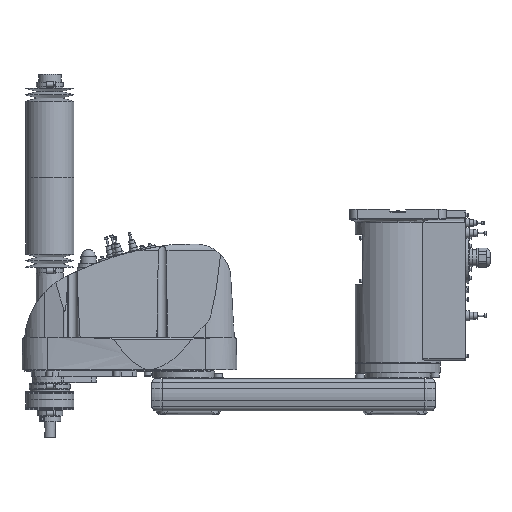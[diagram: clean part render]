
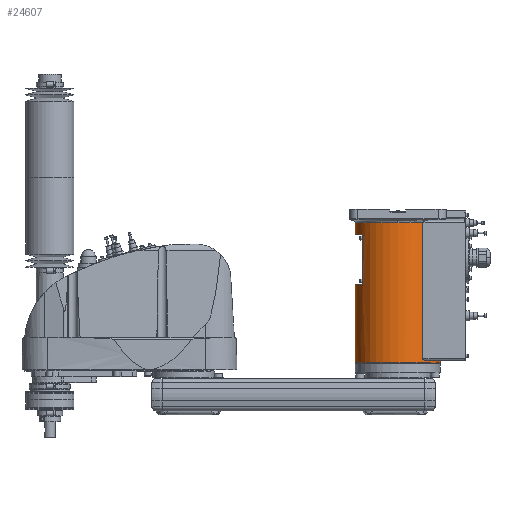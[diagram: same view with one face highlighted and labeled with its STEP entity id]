
A CAD part, top view. The second image highlights one B-rep face of the part: STEP entity #24607.
In plain terms, the highlighted cylindrical face has radius 80 mm (diameter 160 mm), a partial arc.
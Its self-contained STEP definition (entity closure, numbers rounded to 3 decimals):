
#9285 = EDGE_CURVE( '', #12283, #22599, #27276, .T. );
#9667 = VERTEX_POINT( '', #27705 );
#9963 = VERTEX_POINT( '', #28034 );
#10291 = EDGE_CURVE( '', #21571, #16635, #28407, .T. );
#10433 = VERTEX_POINT( '', #28565 );
#10473 = EDGE_CURVE( '', #22599, #18465, #28614, .T. );
#10823 = EDGE_CURVE( '', #26051, #10433, #29000, .T. );
#11347 = VERTEX_POINT( '', #29575 );
#12283 = VERTEX_POINT( '', #30631 );
#13363 = VERTEX_POINT( '', #31855 );
#14627 = EDGE_CURVE( '', #9963, #9667, #33268, .T. );
#16635 = VERTEX_POINT( '', #35516 );
#18465 = VERTEX_POINT( '', #37534 );
#18671 = EDGE_CURVE( '', #12283, #21571, #37766, .T. );
#21347 = EDGE_CURVE( '', #18465, #9963, #40775, .T. );
#21571 = VERTEX_POINT( '', #41015 );
#21703 = VERTEX_POINT( '', #41161 );
#22599 = VERTEX_POINT( '', #42144 );
#23033 = EDGE_CURVE( '', #11347, #13363, #42628, .T. );
#24607 = ADVANCED_FACE( '', ( #44364 ), #44365, .T. );
#24775 = EDGE_CURVE( '', #9667, #11347, #44560, .T. );
#24853 = EDGE_CURVE( '', #10433, #21703, #44642, .T. );
#25329 = EDGE_CURVE( '', #13363, #26051, #45155, .T. );
#26051 = VERTEX_POINT( '', #45978 );
#26063 = EDGE_CURVE( '', #21703, #16635, #45990, .T. );
#27276 = LINE( '', #47490, #47491 );
#27705 = CARTESIAN_POINT( '', ( -80., 176., 0. ) );
#28034 = CARTESIAN_POINT( '', ( -66., 176., 45.211 ) );
#28407 = CIRCLE( '', #49309, 80. );
#28565 = CARTESIAN_POINT( '', ( 50.557, 34.5, 62. ) );
#28614 = CIRCLE( '', #49596, 80. );
#29000 = CIRCLE( '', #50144, 80. );
#29575 = CARTESIAN_POINT( '', ( -80., 30., 0. ) );
#30631 = CARTESIAN_POINT( '', ( -80., 291.5, 0. ) );
#31855 = CARTESIAN_POINT( '', ( 80., 30., 0. ) );
#33268 = CIRCLE( '', #56792, 80. );
#35516 = CARTESIAN_POINT( '', ( 46.637, 291.5, 65. ) );
#37534 = CARTESIAN_POINT( '', ( -66., 269., 45.211 ) );
#37766 = CIRCLE( '', #63629, 80. );
#40775 = LINE( '', #68255, #68256 );
#41015 = CARTESIAN_POINT( '', ( 0., 291.5, 80. ) );
#41161 = CARTESIAN_POINT( '', ( 46.637, 37.5, 65. ) );
#42144 = CARTESIAN_POINT( '', ( -80., 269., 0. ) );
#42628 = CIRCLE( '', #71245, 80. );
#44364 = FACE_OUTER_BOUND( '', #73983, .T. );
#44365 = CYLINDRICAL_SURFACE( '', #73984, 80. );
#44560 = LINE( '', #74257, #74258 );
#44642 = B_SPLINE_CURVE_WITH_KNOTS( '', 3, ( #74362, #74363, #74364, #74365, #74366, #74367, #74368, #74369, #74370, #74371, #74372, #74373, #74374, #74375, #74376, #74377 ), .UNSPECIFIED., .F., .F., ( 4, 2, 2, 2, 2, 2, 2, 4 ), ( -6.06, -5.11, -4.16, -2.26, -1.695, -1.13, -0.565, 0. ), .UNSPECIFIED. );
#45155 = LINE( '', #75115, #75116 );
#45978 = CARTESIAN_POINT( '', ( 80., 34.5, 0. ) );
#45990 = LINE( '', #76390, #76391 );
#47490 = CARTESIAN_POINT( '', ( -80., 160.75, 0. ) );
#47491 = VECTOR( '', #78368, 1. );
#49309 = AXIS2_PLACEMENT_3D( '', #79790, #79791, #79792 );
#49596 = AXIS2_PLACEMENT_3D( '', #80030, #80031, #80032 );
#50144 = AXIS2_PLACEMENT_3D( '', #80447, #80448, #80449 );
#56792 = AXIS2_PLACEMENT_3D( '', #85486, #85487, #85488 );
#63629 = AXIS2_PLACEMENT_3D( '', #90656, #90657, #90658 );
#68255 = CARTESIAN_POINT( '', ( -66., 222.5, 45.211 ) );
#68256 = VECTOR( '', #94239, 1. );
#71245 = AXIS2_PLACEMENT_3D( '', #96255, #96256, #96257 );
#73983 = EDGE_LOOP( '', ( #98209, #98210, #98211, #98212, #98213, #98214, #98215, #98216, #98217, #98218, #98219, #98220 ) );
#73984 = AXIS2_PLACEMENT_3D( '', #98221, #98222, #98223 );
#74257 = CARTESIAN_POINT( '', ( -80., 160.75, 0. ) );
#74258 = VECTOR( '', #98482, 1. );
#74362 = CARTESIAN_POINT( '', ( 50.557, 34.5, 62. ) );
#74363 = CARTESIAN_POINT( '', ( 50.312, 34.5, 62.2 ) );
#74364 = CARTESIAN_POINT( '', ( 50.054, 34.52, 62.407 ) );
#74365 = CARTESIAN_POINT( '', ( 49.533, 34.607, 62.822 ) );
#74366 = CARTESIAN_POINT( '', ( 49.269, 34.674, 63.029 ) );
#74367 = CARTESIAN_POINT( '', ( 48.491, 34.945, 63.632 ) );
#74368 = CARTESIAN_POINT( '', ( 47.991, 35.221, 64.009 ) );
#74369 = CARTESIAN_POINT( '', ( 47.455, 35.701, 64.405 ) );
#74370 = CARTESIAN_POINT( '', ( 47.333, 35.827, 64.495 ) );
#74371 = CARTESIAN_POINT( '', ( 47.106, 36.105, 64.661 ) );
#74372 = CARTESIAN_POINT( '', ( 47.002, 36.258, 64.736 ) );
#74373 = CARTESIAN_POINT( '', ( 46.828, 36.585, 64.863 ) );
#74374 = CARTESIAN_POINT( '', ( 46.758, 36.761, 64.913 ) );
#74375 = CARTESIAN_POINT( '', ( 46.662, 37.124, 64.982 ) );
#74376 = CARTESIAN_POINT( '', ( 46.637, 37.312, 65. ) );
#74377 = CARTESIAN_POINT( '', ( 46.637, 37.5, 65. ) );
#75115 = CARTESIAN_POINT( '', ( 80., 160.75, 0. ) );
#75116 = VECTOR( '', #99027, 1. );
#76390 = CARTESIAN_POINT( '', ( 46.637, 164.5, 65. ) );
#76391 = VECTOR( '', #100090, 1. );
#78368 = DIRECTION( '', ( 0., -1., 0. ) );
#79790 = CARTESIAN_POINT( '', ( 0., 291.5, 0. ) );
#79791 = DIRECTION( '', ( 0., 1., 0. ) );
#79792 = DIRECTION( '', ( 1., 0., 0. ) );
#80030 = CARTESIAN_POINT( '', ( 0., 269., 0. ) );
#80031 = DIRECTION( '', ( 0., 1., 0. ) );
#80032 = DIRECTION( '', ( 1., 0., 0. ) );
#80447 = CARTESIAN_POINT( '', ( 0., 34.5, 0. ) );
#80448 = DIRECTION( '', ( 0., -1., 0. ) );
#80449 = DIRECTION( '', ( 1., 0., 0. ) );
#85486 = CARTESIAN_POINT( '', ( 0., 176., 0. ) );
#85487 = DIRECTION( '', ( 0., -1., 0. ) );
#85488 = DIRECTION( '', ( 1., 0., 0. ) );
#90656 = CARTESIAN_POINT( '', ( 0., 291.5, 0. ) );
#90657 = DIRECTION( '', ( 0., 1., 0. ) );
#90658 = DIRECTION( '', ( 1., 0., 0. ) );
#94239 = DIRECTION( '', ( 0., -1., 0. ) );
#96255 = CARTESIAN_POINT( '', ( 0., 30., 0. ) );
#96256 = DIRECTION( '', ( 0., 1., 0. ) );
#96257 = DIRECTION( '', ( 1., 0., 0. ) );
#98209 = ORIENTED_EDGE( '', *, *, #25329, .T. );
#98210 = ORIENTED_EDGE( '', *, *, #10823, .T. );
#98211 = ORIENTED_EDGE( '', *, *, #24853, .T. );
#98212 = ORIENTED_EDGE( '', *, *, #26063, .T. );
#98213 = ORIENTED_EDGE( '', *, *, #10291, .F. );
#98214 = ORIENTED_EDGE( '', *, *, #18671, .F. );
#98215 = ORIENTED_EDGE( '', *, *, #9285, .T. );
#98216 = ORIENTED_EDGE( '', *, *, #10473, .T. );
#98217 = ORIENTED_EDGE( '', *, *, #21347, .T. );
#98218 = ORIENTED_EDGE( '', *, *, #14627, .T. );
#98219 = ORIENTED_EDGE( '', *, *, #24775, .T. );
#98220 = ORIENTED_EDGE( '', *, *, #23033, .T. );
#98221 = CARTESIAN_POINT( '', ( 0., 160.75, 0. ) );
#98222 = DIRECTION( '', ( 0., -1., 0. ) );
#98223 = DIRECTION( '', ( 1., 0., 0. ) );
#98482 = DIRECTION( '', ( 0., -1., 0. ) );
#99027 = DIRECTION( '', ( 0., 1., 0. ) );
#100090 = DIRECTION( '', ( 0., 1., 0. ) );
